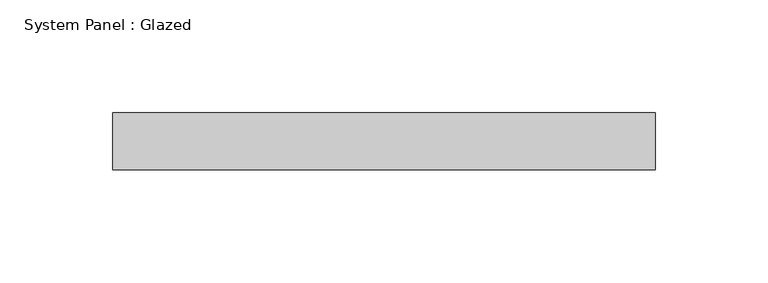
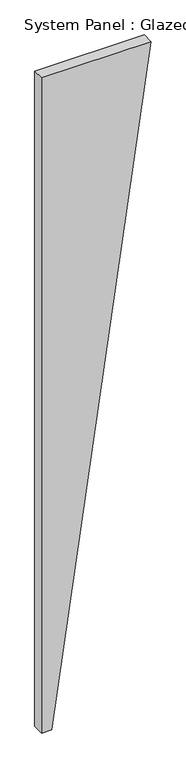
"""IFC4 building model written with IfcOpenShell, lengths in millimetres: plate geometry, System Panel : Glazed."""

from ifc_helpers import new_model, si_unit, frame, origin, place, context, project, spatial, polyline, outline, extrude, source, transform, mapped, element, save


def system_panel_glazed_15e4bc43(model_context):
    return source(origin(), model_context, "Body", "SweptSolid", [
        extrude(outline(polyline([(0.0, -120.6043164), (0.0, -98.6762591), (1524.0, 120.6043164), (1524.0, -120.6043164), (0.0, -120.6043164)])), frame((0.0, 19.05, 0.0), z_axis=(0.0, 1.0, 0.0), x_axis=(0.0, 0.0, 1.0)), (0.0, 0.0, 1.0), 25.4),
    ])


if __name__ == "__main__":
    model = new_model("IFC4")
    model_context = context("Model", 3, world=origin())
    ifc_project = project(units=[si_unit("LENGTHUNIT", "METRE", prefix="MILLI")], contexts=[model_context])
    site = spatial("IfcSite", under=ifc_project)
    building = spatial("IfcBuilding", under=site)
    placement = place(None, origin())
    system_panel_glazed_shape = system_panel_glazed_15e4bc43(model_context)
    element("IfcPlate", 1, ObjectType="System Panel : Glazed", at=placement, inside=building, context=model_context, shape_type="MappedRepresentation", body=[
        mapped(system_panel_glazed_shape, transform((0.0, 0.0, 0.0), x_axis=(1.0, 0.0, 0.0), y_axis=(0.0, 1.0, 0.0), z_axis=(0.0, 0.0, 1.0))),
    ])
    save(model, "model.ifc")
